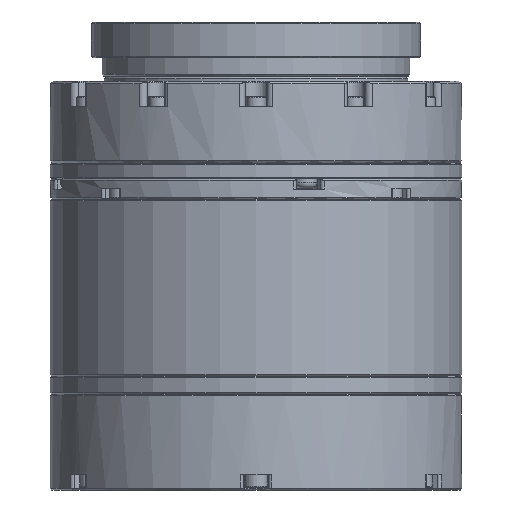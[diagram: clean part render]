
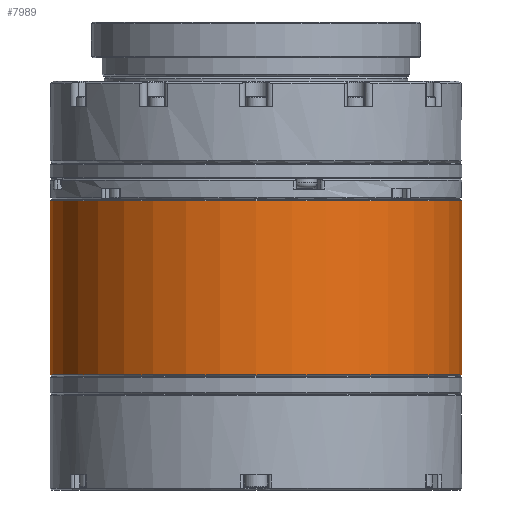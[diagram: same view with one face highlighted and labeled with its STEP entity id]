
A CAD part, front view. The second image highlights one B-rep face of the part: STEP entity #7989.
In plain terms, the highlighted cylindrical face has radius 40 mm (diameter 80 mm), a full revolution.
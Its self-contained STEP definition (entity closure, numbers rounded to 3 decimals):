
#7466=CYLINDRICAL_SURFACE('',#33701,40.);
#7989=ADVANCED_FACE('',(#10446,#10447),#7466,.T.);
#10446=FACE_BOUND('',#12982,.T.);
#10447=FACE_BOUND('',#12983,.T.);
#12982=EDGE_LOOP('',(#16781));
#12983=EDGE_LOOP('',(#16782));
#16781=ORIENTED_EDGE('',*,*,#27526,.T.);
#16782=ORIENTED_EDGE('',*,*,#27527,.T.);
#24660=VERTEX_POINT('',#49107);
#24661=VERTEX_POINT('',#49109);
#27526=EDGE_CURVE('',#24660,#24660,#31437,.T.);
#27527=EDGE_CURVE('',#24661,#24661,#31438,.T.);
#31437=CIRCLE('',#33699,40.);
#31438=CIRCLE('',#33700,40.);
#33699=AXIS2_PLACEMENT_3D('',#49106,#38430,#38431);
#33700=AXIS2_PLACEMENT_3D('',#49108,#38432,#38433);
#33701=AXIS2_PLACEMENT_3D('',#49110,#38434,#38435);
#38430=DIRECTION('',(0.,0.,-1.));
#38431=DIRECTION('',(1.,0.,0.));
#38432=DIRECTION('',(0.,0.,1.));
#38433=DIRECTION('',(-1.,0.,0.));
#38434=DIRECTION('',(0.,0.,1.));
#38435=DIRECTION('',(-1.,0.,0.));
#49106=CARTESIAN_POINT('',(0.,0.,8.7));
#49107=CARTESIAN_POINT('',(40.,0.,8.7));
#49108=CARTESIAN_POINT('',(0.,0.,-25.1));
#49109=CARTESIAN_POINT('',(-40.,0.,-25.1));
#49110=CARTESIAN_POINT('',(0.,0.,9.));
